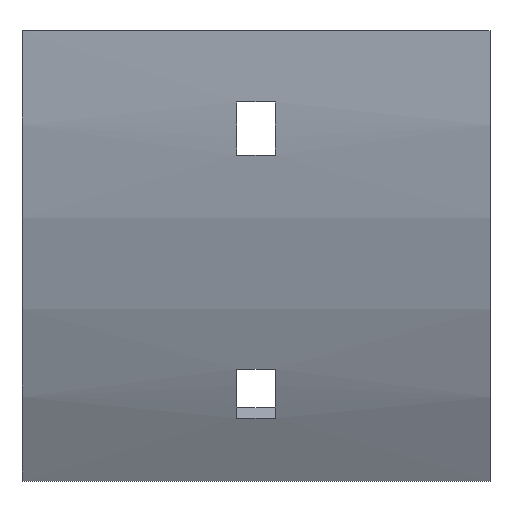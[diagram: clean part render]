
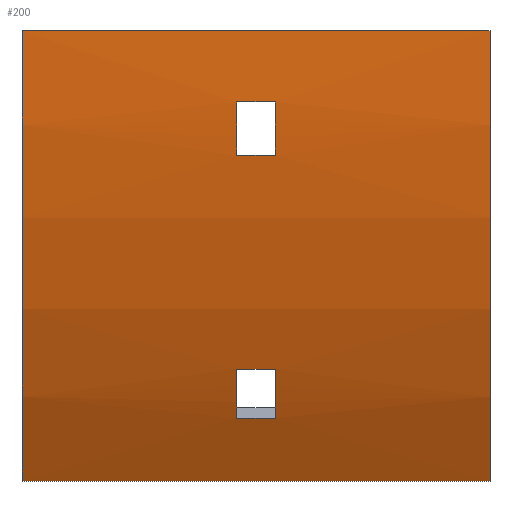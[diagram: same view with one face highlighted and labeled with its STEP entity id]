
A CAD part, front view. The second image highlights one B-rep face of the part: STEP entity #200.
In plain terms, the highlighted cylindrical face has radius 152 mm (diameter 304 mm), a partial arc.
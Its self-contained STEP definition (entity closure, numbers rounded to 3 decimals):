
#17 = ORIENTED_EDGE ( 'NONE', *, *, #257, .F. ) ;
#24 = DIRECTION ( 'NONE',  ( 1., 0., 0. ) ) ;
#33 = LINE ( 'NONE', #381, #910 ) ;
#51 = CARTESIAN_POINT ( 'NONE',  ( 3.25, 100., 0. ) ) ;
#53 = VERTEX_POINT ( 'NONE', #909 ) ;
#64 = EDGE_LOOP ( 'NONE', ( #801, #977, #924, #185 ) ) ;
#79 = CYLINDRICAL_SURFACE ( 'NONE', #1016, 152. ) ;
#80 = CARTESIAN_POINT ( 'NONE',  ( -3.25, -40.874, -57.085 ) ) ;
#113 = EDGE_CURVE ( 'NONE', #700, #198, #775, .T. ) ;
#116 = ORIENTED_EDGE ( 'NONE', *, *, #838, .F. ) ;
#118 = LINE ( 'NONE', #484, #535 ) ;
#143 = EDGE_CURVE ( 'NONE', #932, #1128, #206, .T. ) ;
#147 = FACE_BOUND ( 'NONE', #683, .T. ) ;
#149 = ORIENTED_EDGE ( 'NONE', *, *, #219, .F. ) ;
#156 = LINE ( 'NONE', #332, #810 ) ;
#178 = CARTESIAN_POINT ( 'NONE',  ( 39.5, -40.874, -57.085 ) ) ;
#185 = ORIENTED_EDGE ( 'NONE', *, *, #722, .T. ) ;
#193 = CARTESIAN_POINT ( 'NONE',  ( 39.5, -52., 0. ) ) ;
#196 = VERTEX_POINT ( 'NONE', #692 ) ;
#198 = VERTEX_POINT ( 'NONE', #873 ) ;
#200 = ADVANCED_FACE ( 'NONE', ( #950, #789, #147 ), #79, .T. ) ;
#206 = CIRCLE ( 'NONE', #1099, 152. ) ;
#209 = CARTESIAN_POINT ( 'NONE',  ( -39.5, 100., 0. ) ) ;
#219 = EDGE_CURVE ( 'NONE', #1128, #614, #156, .T. ) ;
#231 = CARTESIAN_POINT ( 'NONE',  ( -3.25, -50.542, -21. ) ) ;
#257 = EDGE_CURVE ( 'NONE', #271, #932, #983, .T. ) ;
#266 = AXIS2_PLACEMENT_3D ( 'NONE', #650, #1030, #1026 ) ;
#271 = VERTEX_POINT ( 'NONE', #669 ) ;
#281 = AXIS2_PLACEMENT_3D ( 'NONE', #209, #470, #674 ) ;
#332 = CARTESIAN_POINT ( 'NONE',  ( 39.5, -37.225, -65.37 ) ) ;
#342 = DIRECTION ( 'NONE',  ( 1., 0., 0. ) ) ;
#371 = EDGE_CURVE ( 'NONE', #691, #598, #33, .T. ) ;
#372 = EDGE_CURVE ( 'NONE', #598, #53, #523, .T. ) ;
#381 = CARTESIAN_POINT ( 'NONE',  ( 39.5, -50.542, -21. ) ) ;
#395 = EDGE_CURVE ( 'NONE', #420, #844, #621, .T. ) ;
#408 = EDGE_CURVE ( 'NONE', #53, #196, #828, .T. ) ;
#409 = DIRECTION ( 'NONE',  ( -1., 0., 0. ) ) ;
#415 = CARTESIAN_POINT ( 'NONE',  ( 3.25, 100., 0. ) ) ;
#420 = VERTEX_POINT ( 'NONE', #854 ) ;
#459 = VECTOR ( 'NONE', #24, 1000. ) ;
#470 = DIRECTION ( 'NONE',  ( 1., 0., 0. ) ) ;
#477 = CARTESIAN_POINT ( 'NONE',  ( -3.25, 100., 0. ) ) ;
#478 = ORIENTED_EDGE ( 'NONE', *, *, #931, .T. ) ;
#484 = CARTESIAN_POINT ( 'NONE',  ( 39.5, -31.636, -76. ) ) ;
#523 = CIRCLE ( 'NONE', #554, 152. ) ;
#529 = CARTESIAN_POINT ( 'NONE',  ( 39.5, -52., 0. ) ) ;
#535 = VECTOR ( 'NONE', #657, 1000. ) ;
#548 = CARTESIAN_POINT ( 'NONE',  ( -39.5, -31.636, -76. ) ) ;
#554 = AXIS2_PLACEMENT_3D ( 'NONE', #477, #923, #1102 ) ;
#576 = CARTESIAN_POINT ( 'NONE',  ( -3.25, 100., 0. ) ) ;
#593 = DIRECTION ( 'NONE',  ( 0., 0., -1. ) ) ;
#595 = CARTESIAN_POINT ( 'NONE',  ( -3.25, -37.225, -65.37 ) ) ;
#598 = VERTEX_POINT ( 'NONE', #231 ) ;
#603 = CIRCLE ( 'NONE', #934, 152. ) ;
#614 = VERTEX_POINT ( 'NONE', #1057 ) ;
#621 = CIRCLE ( 'NONE', #281, 152. ) ;
#650 = CARTESIAN_POINT ( 'NONE',  ( 39.5, 100., 0. ) ) ;
#653 = DIRECTION ( 'NONE',  ( -1., 0., 0. ) ) ;
#656 = VECTOR ( 'NONE', #887, 1000. ) ;
#657 = DIRECTION ( 'NONE',  ( -1., 0., 0. ) ) ;
#659 = DIRECTION ( 'NONE',  ( -1., 0., 0. ) ) ;
#669 = CARTESIAN_POINT ( 'NONE',  ( 3.25, -40.874, -57.085 ) ) ;
#674 = DIRECTION ( 'NONE',  ( 0., 0., -1. ) ) ;
#683 = EDGE_LOOP ( 'NONE', ( #1135, #17, #116, #149 ) ) ;
#691 = VERTEX_POINT ( 'NONE', #890 ) ;
#692 = CARTESIAN_POINT ( 'NONE',  ( 3.25, -51.526, -12. ) ) ;
#700 = VERTEX_POINT ( 'NONE', #193 ) ;
#722 = EDGE_CURVE ( 'NONE', #196, #691, #1149, .T. ) ;
#745 = VECTOR ( 'NONE', #653, 1000. ) ;
#772 = DIRECTION ( 'NONE',  ( 0., 0., 1. ) ) ;
#775 = CIRCLE ( 'NONE', #266, 152. ) ;
#781 = ORIENTED_EDGE ( 'NONE', *, *, #113, .F. ) ;
#789 = FACE_BOUND ( 'NONE', #64, .T. ) ;
#793 = LINE ( 'NONE', #529, #656 ) ;
#801 = ORIENTED_EDGE ( 'NONE', *, *, #371, .T. ) ;
#810 = VECTOR ( 'NONE', #342, 1000. ) ;
#828 = LINE ( 'NONE', #1027, #459 ) ;
#838 = EDGE_CURVE ( 'NONE', #614, #271, #603, .T. ) ;
#844 = VERTEX_POINT ( 'NONE', #548 ) ;
#853 = DIRECTION ( 'NONE',  ( 0., 0., -1. ) ) ;
#854 = CARTESIAN_POINT ( 'NONE',  ( -39.5, -52., 0. ) ) ;
#873 = CARTESIAN_POINT ( 'NONE',  ( 39.5, -31.636, -76. ) ) ;
#883 = DIRECTION ( 'NONE',  ( 1., 0., 0. ) ) ;
#887 = DIRECTION ( 'NONE',  ( -1., 0., 0. ) ) ;
#890 = CARTESIAN_POINT ( 'NONE',  ( 3.25, -50.542, -21. ) ) ;
#895 = AXIS2_PLACEMENT_3D ( 'NONE', #415, #883, #593 ) ;
#909 = CARTESIAN_POINT ( 'NONE',  ( -3.25, -51.526, -12. ) ) ;
#910 = VECTOR ( 'NONE', #659, 1000. ) ;
#923 = DIRECTION ( 'NONE',  ( -1., 0., 0. ) ) ;
#924 = ORIENTED_EDGE ( 'NONE', *, *, #408, .T. ) ;
#931 = EDGE_CURVE ( 'NONE', #700, #420, #793, .T. ) ;
#932 = VERTEX_POINT ( 'NONE', #80 ) ;
#933 = DIRECTION ( 'NONE',  ( 1., 0., 0. ) ) ;
#934 = AXIS2_PLACEMENT_3D ( 'NONE', #51, #409, #772 ) ;
#948 = EDGE_LOOP ( 'NONE', ( #1005, #1150, #781, #478 ) ) ;
#950 = FACE_OUTER_BOUND ( 'NONE', #948, .T. ) ;
#971 = EDGE_CURVE ( 'NONE', #198, #844, #118, .T. ) ;
#977 = ORIENTED_EDGE ( 'NONE', *, *, #372, .T. ) ;
#983 = LINE ( 'NONE', #178, #745 ) ;
#1005 = ORIENTED_EDGE ( 'NONE', *, *, #395, .T. ) ;
#1016 = AXIS2_PLACEMENT_3D ( 'NONE', #1137, #1130, #1036 ) ;
#1026 = DIRECTION ( 'NONE',  ( 0., 0., -1. ) ) ;
#1027 = CARTESIAN_POINT ( 'NONE',  ( 39.5, -51.526, -12. ) ) ;
#1030 = DIRECTION ( 'NONE',  ( 1., 0., 0. ) ) ;
#1036 = DIRECTION ( 'NONE',  ( 0., 0., 1. ) ) ;
#1057 = CARTESIAN_POINT ( 'NONE',  ( 3.25, -37.225, -65.37 ) ) ;
#1099 = AXIS2_PLACEMENT_3D ( 'NONE', #576, #933, #853 ) ;
#1102 = DIRECTION ( 'NONE',  ( 0., 0., 1. ) ) ;
#1128 = VERTEX_POINT ( 'NONE', #595 ) ;
#1130 = DIRECTION ( 'NONE',  ( -1., 0., 0. ) ) ;
#1135 = ORIENTED_EDGE ( 'NONE', *, *, #143, .F. ) ;
#1137 = CARTESIAN_POINT ( 'NONE',  ( 39.5, 100., 0. ) ) ;
#1149 = CIRCLE ( 'NONE', #895, 152. ) ;
#1150 = ORIENTED_EDGE ( 'NONE', *, *, #971, .F. ) ;
